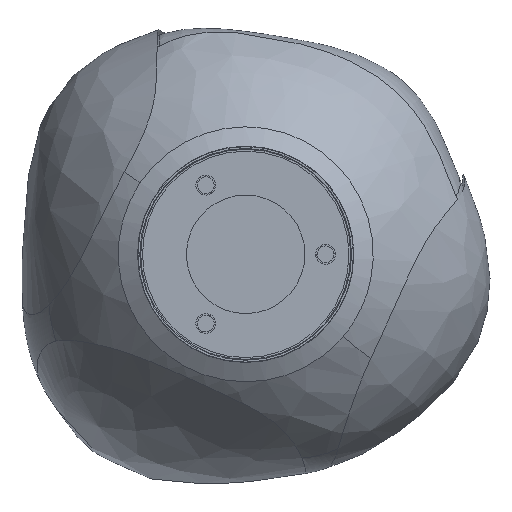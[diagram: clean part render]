
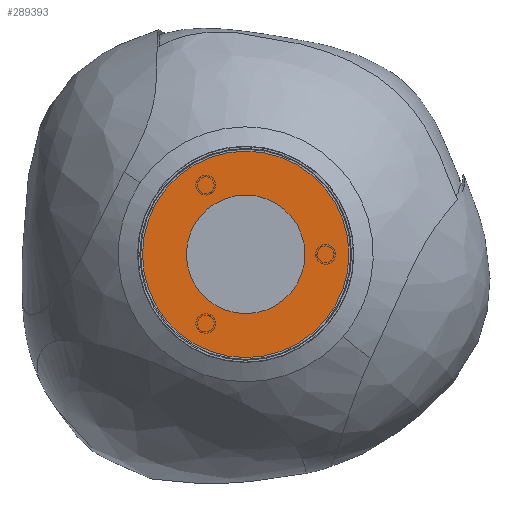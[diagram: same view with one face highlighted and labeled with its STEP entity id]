
A CAD part, front view. The second image highlights one B-rep face of the part: STEP entity #289393.
In plain terms, the highlighted planar face has unit normal (0, -1, 0).
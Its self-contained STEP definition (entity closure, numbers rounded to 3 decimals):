
#1112 = AXIS2_PLACEMENT_3D ( 'NONE', #149576, #21836, #33046 ) ;
#1357 = CIRCLE ( 'NONE', #189189, 57.5 ) ;
#4050 = CARTESIAN_POINT ( 'NONE',  ( 0., -2.3, 33. ) ) ;
#7843 = CARTESIAN_POINT ( 'NONE',  ( 0., -2.3, -33. ) ) ;
#21836 = DIRECTION ( 'NONE',  ( 0., -1., 0. ) ) ;
#22957 = CARTESIAN_POINT ( 'NONE',  ( 0., -2.3, 0. ) ) ;
#33046 = DIRECTION ( 'NONE',  ( 1., 0., 0. ) ) ;
#33877 = CARTESIAN_POINT ( 'NONE',  ( 0., -2.3, 0. ) ) ;
#39925 = DIRECTION ( 'NONE',  ( 0., 0., -1. ) ) ;
#51420 = CIRCLE ( 'NONE', #110489, 57.5 ) ;
#51601 = EDGE_CURVE ( 'NONE', #170180, #328633, #239135, .T. ) ;
#60015 = EDGE_CURVE ( 'NONE', #86074, #286524, #51420, .T. ) ;
#62869 = EDGE_CURVE ( 'NONE', #328633, #170180, #201624, .T. ) ;
#67504 = ORIENTED_EDGE ( 'NONE', *, *, #51601, .T. ) ;
#70126 = DIRECTION ( 'NONE',  ( 0., 1., 0. ) ) ;
#76772 = EDGE_LOOP ( 'NONE', ( #135710, #67504 ) ) ;
#86074 = VERTEX_POINT ( 'NONE', #263916 ) ;
#86317 = CARTESIAN_POINT ( 'NONE',  ( 0., -2.3, -57.5 ) ) ;
#86903 = EDGE_LOOP ( 'NONE', ( #153459, #116627 ) ) ;
#94177 = FACE_BOUND ( 'NONE', #76772, .T. ) ;
#103602 = DIRECTION ( 'NONE',  ( 0., 0., -1. ) ) ;
#107884 = DIRECTION ( 'NONE',  ( 0., 1., 0. ) ) ;
#110489 = AXIS2_PLACEMENT_3D ( 'NONE', #140814, #70126, #39925 ) ;
#116627 = ORIENTED_EDGE ( 'NONE', *, *, #60015, .F. ) ;
#135710 = ORIENTED_EDGE ( 'NONE', *, *, #62869, .T. ) ;
#140814 = CARTESIAN_POINT ( 'NONE',  ( 0., -2.3, 0. ) ) ;
#149576 = CARTESIAN_POINT ( 'NONE',  ( 0., -2.3, 0. ) ) ;
#153459 = ORIENTED_EDGE ( 'NONE', *, *, #303318, .F. ) ;
#164913 = DIRECTION ( 'NONE',  ( 0., 0., -1. ) ) ;
#170180 = VERTEX_POINT ( 'NONE', #4050 ) ;
#174782 = PLANE ( 'NONE',  #1112 ) ;
#189189 = AXIS2_PLACEMENT_3D ( 'NONE', #33877, #107884, #164913 ) ;
#201624 = CIRCLE ( 'NONE', #330532, 33. ) ;
#206126 = DIRECTION ( 'NONE',  ( 0., 1., 0. ) ) ;
#211165 = DIRECTION ( 'NONE',  ( 0., 0., -1. ) ) ;
#212251 = AXIS2_PLACEMENT_3D ( 'NONE', #22957, #206126, #103602 ) ;
#216098 = CARTESIAN_POINT ( 'NONE',  ( 0., -2.3, 0. ) ) ;
#236409 = DIRECTION ( 'NONE',  ( 0., 1., 0. ) ) ;
#239135 = CIRCLE ( 'NONE', #212251, 33. ) ;
#263916 = CARTESIAN_POINT ( 'NONE',  ( 0., -2.3, 57.5 ) ) ;
#286524 = VERTEX_POINT ( 'NONE', #86317 ) ;
#289393 = ADVANCED_FACE ( 'NONE', ( #94177, #300920 ), #174782, .T. ) ;
#300920 = FACE_OUTER_BOUND ( 'NONE', #86903, .T. ) ;
#303318 = EDGE_CURVE ( 'NONE', #286524, #86074, #1357, .T. ) ;
#328633 = VERTEX_POINT ( 'NONE', #7843 ) ;
#330532 = AXIS2_PLACEMENT_3D ( 'NONE', #216098, #236409, #211165 ) ;
